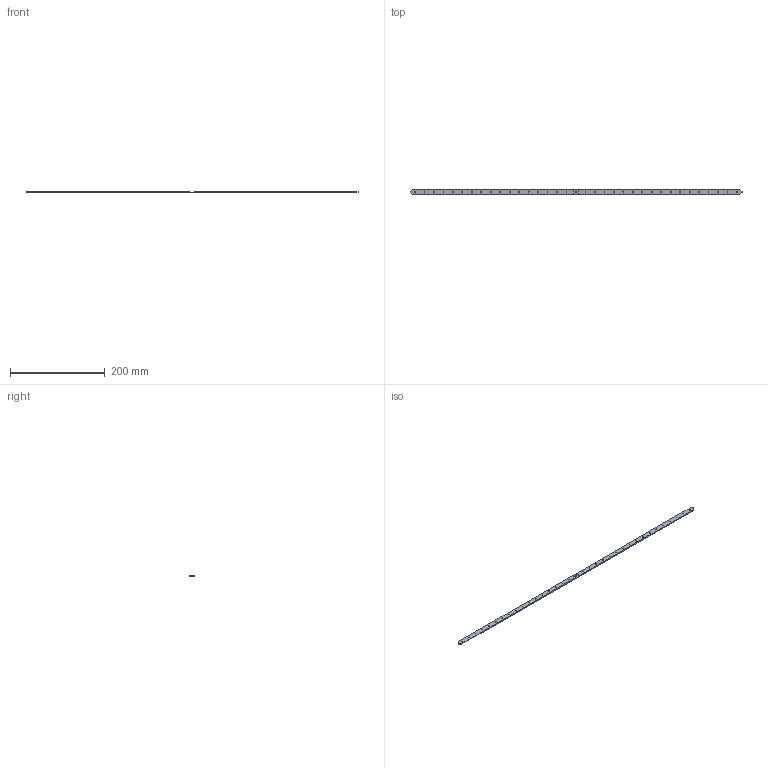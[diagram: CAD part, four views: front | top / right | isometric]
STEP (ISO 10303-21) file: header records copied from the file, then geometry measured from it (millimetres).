
FILE_DESCRIPTION (( 'STEP AP214' ), '1' );
FILE_NAME ('SC152.STEP', '2016-02-26T10:53:35', ( '' ), ( '' ), 'SwSTEP 2.0', 'SolidWorks 2012', '' );
FILE_SCHEMA (( 'AUTOMOTIVE_DESIGN' ));
Length unit declared in the file: millimetre
Products named in the file (1): SC152
Bounding box: 701 x 10 x 2 mm (x, y, z)
Volume: 13679.3 mm3; surface area: 16946.3 mm2
Topology: 1 solids, 1 shells, 82 faces, 240 edges, 160 vertices
Faces by surface type: cylinder 70, plane 12
Entity records: 2978 total; most frequent: DIRECTION 546, CARTESIAN_POINT 483, ORIENTED_EDGE 480, EDGE_CURVE 240, AXIS2_PLACEMENT_3D 223, VERTEX_POINT 160, EDGE_LOOP 152, CIRCLE 140
